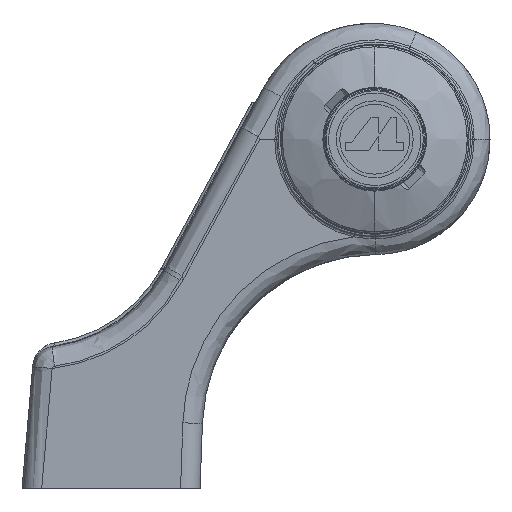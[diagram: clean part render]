
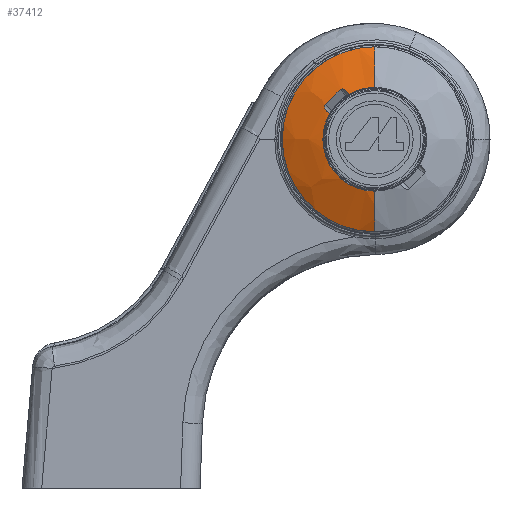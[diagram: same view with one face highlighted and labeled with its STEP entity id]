
A CAD part, front view. The second image highlights one B-rep face of the part: STEP entity #37412.
In plain terms, the highlighted free-form (B-spline) face has degree [3, 3] with [4, 4] control points.
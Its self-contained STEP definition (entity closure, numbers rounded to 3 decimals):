
#597 = CARTESIAN_POINT ( 'NONE',  ( 46.124, -99.202, 54.952 ) ) ;
#1120 = CARTESIAN_POINT ( 'NONE',  ( 46.027, -99.197, 54.847 ) ) ;
#1964 = ORIENTED_EDGE ( 'NONE', *, *, #6802, .T. ) ;
#2140 = CARTESIAN_POINT ( 'NONE',  ( 49.002, -99.317, 57.018 ) ) ;
#2356 = CARTESIAN_POINT ( 'NONE',  ( 46.182, -99.317, 54.198 ) ) ;
#2789 = CARTESIAN_POINT ( 'NONE',  ( 46.124, -99.202, 54.952 ) ) ;
#3181 = CARTESIAN_POINT ( 'NONE',  ( 49.555, -99.481, 56.474 ) ) ;
#3205 = DIRECTION ( 'NONE',  ( 0., 1., 0. ) ) ;
#4133 = CARTESIAN_POINT ( 'NONE',  ( 53.2, -79.867, 53.522 ) ) ;
#5995 = CARTESIAN_POINT ( 'NONE',  ( 53.2, -99.481, 42.571 ) ) ;
#6627 = CARTESIAN_POINT ( 'NONE',  ( 49.37, -99.432, 56.656 ) ) ;
#6802 = EDGE_CURVE ( 'NONE', #13676, #41777, #26295, .T. ) ;
#7960 = CARTESIAN_POINT ( 'NONE',  ( 48.904, -99.285, 57.115 ) ) ;
#8453 = DIRECTION ( 'NONE',  ( 0., -1., 0. ) ) ;
#8556 = B_SPLINE_CURVE_WITH_KNOTS ( 'NONE', 3,
 ( #40047, #28355, #19904, #44278, #7960, #48506 ),
 .UNSPECIFIED., .F., .F.,
 ( 4, 2, 4 ),
 ( 0., 0., 0.001 ),
 .UNSPECIFIED. ) ;
#9281 = CARTESIAN_POINT ( 'NONE',  ( 38.341, -99.481, 42.571 ) ) ;
#9545 = CARTESIAN_POINT ( 'NONE',  ( 46.182, -99.317, 54.198 ) ) ;
#9802 = CARTESIAN_POINT ( 'NONE',  ( 53.2, -97.345, 63.243 ) ) ;
#10128 = EDGE_CURVE ( 'NONE', #41777, #26917, #29376, .T. ) ;
#10753 = B_SPLINE_CURVE_WITH_KNOTS ( 'NONE', 3,
 ( #2789, #34875, #18953, #19219 ),
 .UNSPECIFIED., .F., .F.,
 ( 4, 4 ),
 ( 0., 0.003 ),
 .UNSPECIFIED. ) ;
#11013 = CARTESIAN_POINT ( 'NONE',  ( 46.124, -99.202, 54.952 ) ) ;
#11047 = DIRECTION ( 'NONE',  ( 0., 0., 1. ) ) ;
#11139 = CARTESIAN_POINT ( 'NONE',  ( 49.186, -99.377, 56.838 ) ) ;
#11294 = VERTEX_POINT ( 'NONE', #11013 ) ;
#11754 = CARTESIAN_POINT ( 'NONE',  ( 46.133, -99.301, 54.247 ) ) ;
#11927 = AXIS2_PLACEMENT_3D ( 'NONE', #27820, #8453, #15628 ) ;
#11971 = ORIENTED_EDGE ( 'NONE', *, *, #50255, .T. ) ;
#12791 = CARTESIAN_POINT ( 'NONE',  ( 46.012, -99.243, 54.493 ) ) ;
#12970 = ORIENTED_EDGE ( 'NONE', *, *, #10128, .T. ) ;
#13248 = CARTESIAN_POINT ( 'NONE',  ( 34.259, -99.075, 40.529 ) ) ;
#13358 = DIRECTION ( 'NONE',  ( 0., 1., 0. ) ) ;
#13393 = EDGE_CURVE ( 'NONE', #16633, #13676, #25184, .T. ) ;
#13676 = VERTEX_POINT ( 'NONE', #15156 ) ;
#14295 = EDGE_CURVE ( 'NONE', #18454, #16633, #20158, .T. ) ;
#15064 = CARTESIAN_POINT ( 'NONE',  ( 46.726, -99.481, 53.645 ) ) ;
#15156 = CARTESIAN_POINT ( 'NONE',  ( 53.2, -97.345, 63.243 ) ) ;
#15628 = DIRECTION ( 'NONE',  ( 0.145, 0., -0.989 ) ) ;
#15886 = AXIS2_PLACEMENT_3D ( 'NONE', #4133, #19788, #11047 ) ;
#15967 = CARTESIAN_POINT ( 'NONE',  ( 48.248, -99.202, 57.076 ) ) ;
#16633 = VERTEX_POINT ( 'NONE', #49540 ) ;
#16676 = CARTESIAN_POINT ( 'NONE',  ( 53.2, -97.345, 36.757 ) ) ;
#17228 = CARTESIAN_POINT ( 'NONE',  ( 38.341, -99.481, 57.429 ) ) ;
#18454 = VERTEX_POINT ( 'NONE', #43795 ) ;
#18467 = VERTEX_POINT ( 'NONE', #15967 ) ;
#18953 = CARTESIAN_POINT ( 'NONE',  ( 47.514, -99.238, 56.394 ) ) ;
#19219 = CARTESIAN_POINT ( 'NONE',  ( 48.248, -99.202, 57.076 ) ) ;
#19371 = DIRECTION ( 'NONE',  ( -0.5, 0., 0.866 ) ) ;
#19788 = DIRECTION ( 'NONE',  ( -1., 0., 0. ) ) ;
#19904 = CARTESIAN_POINT ( 'NONE',  ( 48.499, -99.21, 57.212 ) ) ;
#20158 = CIRCLE ( 'NONE', #42177, 7.429 ) ;
#20833 = CARTESIAN_POINT ( 'NONE',  ( 53.2, -79.867, 46.478 ) ) ;
#21216 = CARTESIAN_POINT ( 'NONE',  ( 53.2, -99.075, 59.471 ) ) ;
#21396 = ORIENTED_EDGE ( 'NONE', *, *, #37051, .T. ) ;
#21566 = CARTESIAN_POINT ( 'NONE',  ( 46.726, -99.481, 53.645 ) ) ;
#21613 = AXIS2_PLACEMENT_3D ( 'NONE', #39513, #3205, #19371 ) ;
#21802 = CARTESIAN_POINT ( 'NONE',  ( 45.988, -99.21, 54.699 ) ) ;
#21813 = VERTEX_POINT ( 'NONE', #23759 ) ;
#22249 = FACE_OUTER_BOUND ( 'NONE', #29331, .T. ) ;
#23211 = EDGE_CURVE ( 'NONE', #44983, #37432, #30163, .T. ) ;
#23759 = CARTESIAN_POINT ( 'NONE',  ( 49.002, -99.317, 57.018 ) ) ;
#25184 = CIRCLE ( 'NONE', #15886, 20. ) ;
#25807 = DIRECTION ( 'NONE',  ( 0.5, 0., -0.866 ) ) ;
#25824 = ORIENTED_EDGE ( 'NONE', *, *, #13393, .T. ) ;
#25963 = CARTESIAN_POINT ( 'NONE',  ( 30.352, -98.357, 38.576 ) ) ;
#26082 = ORIENTED_EDGE ( 'NONE', *, *, #23211, .T. ) ;
#26157 = EDGE_CURVE ( 'NONE', #11294, #18467, #10753, .T. ) ;
#26295 = CIRCLE ( 'NONE', #11927, 13.243 ) ;
#26727 = CARTESIAN_POINT ( 'NONE',  ( 46.544, -99.432, 53.83 ) ) ;
#26917 = VERTEX_POINT ( 'NONE', #5995 ) ;
#27317 = ORIENTED_EDGE ( 'NONE', *, *, #28328, .T. ) ;
#27820 = CARTESIAN_POINT ( 'NONE',  ( 53.2, -97.345, 50. ) ) ;
#28328 = EDGE_CURVE ( 'NONE', #21813, #18454, #47255, .T. ) ;
#28355 = CARTESIAN_POINT ( 'NONE',  ( 48.352, -99.197, 57.173 ) ) ;
#28604 = ORIENTED_EDGE ( 'NONE', *, *, #26157, .T. ) ;
#29331 = EDGE_LOOP ( 'NONE', ( #12970, #38470, #26082, #11971, #28604, #21396, #27317, #32218, #25824, #1964 ) ) ;
#29376 = CIRCLE ( 'NONE', #44631, 20. ) ;
#29676 = CARTESIAN_POINT ( 'NONE',  ( 30.352, -98.357, 61.424 ) ) ;
#30163 = B_SPLINE_CURVE_WITH_KNOTS ( 'NONE', 3,
 ( #15064, #26727, #38667, #2356 ),
 .UNSPECIFIED., .F., .F.,
 ( 4, 4 ),
 ( 0., 0.001 ),
 .UNSPECIFIED. ) ;
#32218 = ORIENTED_EDGE ( 'NONE', *, *, #14295, .T. ) ;
#33721 = CARTESIAN_POINT ( 'NONE',  ( 46.032, -99.257, 54.426 ) ) ;
#33770 = CARTESIAN_POINT ( 'NONE',  ( 53.2, -99.481, 50. ) ) ;
#34447 = CARTESIAN_POINT ( 'NONE',  ( 53.2, -98.357, 61.424 ) ) ;
#34875 = CARTESIAN_POINT ( 'NONE',  ( 46.806, -99.238, 55.686 ) ) ;
#34928 = EDGE_CURVE ( 'NONE', #26917, #44983, #45285, .T. ) ;
#36490 = DIRECTION ( 'NONE',  ( 0., 0., 1. ) ) ;
#36889 =( BOUNDED_SURFACE ( )  B_SPLINE_SURFACE ( 3, 3, ( 
 ( #38420, #46106, #45587, #9802 ),
 ( #41350, #25963, #29676, #34447 ),
 ( #45314, #13248, #42135, #21216 ),
 ( #37384, #9281, #17228, #46369 ) ),
 .UNSPECIFIED., .F., .F., .F. ) 
 B_SPLINE_SURFACE_WITH_KNOTS ( ( 4, 4 ),
 ( 4, 4 ),
 ( 0.054, 0.949 ),
 ( 0., 1. ),
 .UNSPECIFIED. ) 
 GEOMETRIC_REPRESENTATION_ITEM ( )  RATIONAL_B_SPLINE_SURFACE ( (
 ( 0.998, 0.333, 0.333, 0.998),
 ( 0.99, 0.33, 0.33, 0.99),
 ( 0.991, 0.33, 0.33, 0.991),
 ( 0.999, 0.333, 0.333, 0.999) ) ) 
 REPRESENTATION_ITEM ( '' )  SURFACE ( )  );
#37051 = EDGE_CURVE ( 'NONE', #18467, #21813, #8556, .T. ) ;
#37384 = CARTESIAN_POINT ( 'NONE',  ( 53.2, -99.481, 42.571 ) ) ;
#37412 = ADVANCED_FACE ( 'NONE', ( #22249 ), #36889, .T. ) ;
#37432 = VERTEX_POINT ( 'NONE', #9545 ) ;
#38420 = CARTESIAN_POINT ( 'NONE',  ( 53.2, -97.345, 36.757 ) ) ;
#38470 = ORIENTED_EDGE ( 'NONE', *, *, #34928, .T. ) ;
#38667 = CARTESIAN_POINT ( 'NONE',  ( 46.362, -99.377, 54.014 ) ) ;
#39513 = CARTESIAN_POINT ( 'NONE',  ( 53.2, -99.481, 50. ) ) ;
#39767 = B_SPLINE_CURVE_WITH_KNOTS ( 'NONE', 3,
 ( #48051, #11754, #40105, #33721, #12791, #21802, #1120, #597 ),
 .UNSPECIFIED., .F., .F.,
 ( 4, 2, 2, 4 ),
 ( 0., 0., 0., 0.001 ),
 .UNSPECIFIED. ) ;
#40047 = CARTESIAN_POINT ( 'NONE',  ( 48.248, -99.202, 57.076 ) ) ;
#40105 = CARTESIAN_POINT ( 'NONE',  ( 46.094, -99.286, 54.303 ) ) ;
#41350 = CARTESIAN_POINT ( 'NONE',  ( 53.2, -98.357, 38.576 ) ) ;
#41777 = VERTEX_POINT ( 'NONE', #16676 ) ;
#42135 = CARTESIAN_POINT ( 'NONE',  ( 34.259, -99.075, 59.471 ) ) ;
#42177 = AXIS2_PLACEMENT_3D ( 'NONE', #33770, #13358, #25807 ) ;
#43795 = CARTESIAN_POINT ( 'NONE',  ( 49.555, -99.481, 56.474 ) ) ;
#44278 = CARTESIAN_POINT ( 'NONE',  ( 48.775, -99.254, 57.181 ) ) ;
#44631 = AXIS2_PLACEMENT_3D ( 'NONE', #20833, #49178, #36490 ) ;
#44983 = VERTEX_POINT ( 'NONE', #21566 ) ;
#45285 = CIRCLE ( 'NONE', #21613, 7.429 ) ;
#45314 = CARTESIAN_POINT ( 'NONE',  ( 53.2, -99.075, 40.529 ) ) ;
#45587 = CARTESIAN_POINT ( 'NONE',  ( 26.714, -97.345, 63.243 ) ) ;
#46106 = CARTESIAN_POINT ( 'NONE',  ( 26.714, -97.345, 36.757 ) ) ;
#46369 = CARTESIAN_POINT ( 'NONE',  ( 53.2, -99.481, 57.429 ) ) ;
#47255 = B_SPLINE_CURVE_WITH_KNOTS ( 'NONE', 3,
 ( #2140, #11139, #6627, #3181 ),
 .UNSPECIFIED., .F., .F.,
 ( 4, 4 ),
 ( 0., 0.001 ),
 .UNSPECIFIED. ) ;
#48051 = CARTESIAN_POINT ( 'NONE',  ( 46.182, -99.317, 54.198 ) ) ;
#48506 = CARTESIAN_POINT ( 'NONE',  ( 49.002, -99.317, 57.018 ) ) ;
#49178 = DIRECTION ( 'NONE',  ( -1., 0., 0. ) ) ;
#49540 = CARTESIAN_POINT ( 'NONE',  ( 53.2, -99.481, 57.429 ) ) ;
#50255 = EDGE_CURVE ( 'NONE', #37432, #11294, #39767, .T. ) ;
